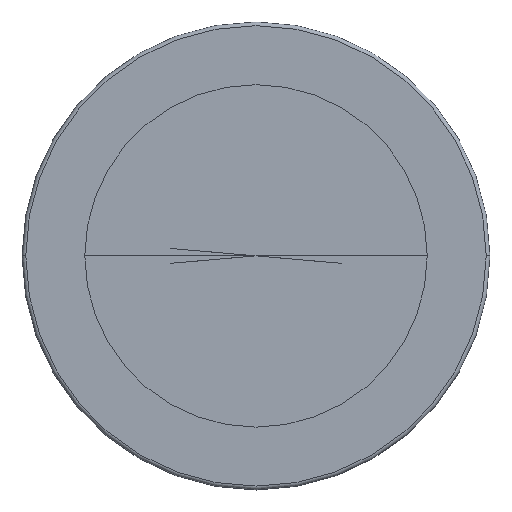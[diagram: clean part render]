
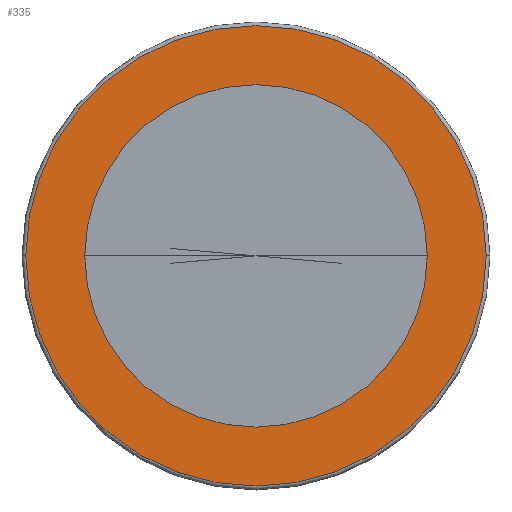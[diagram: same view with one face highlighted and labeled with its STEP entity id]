
A CAD part, top view. The second image highlights one B-rep face of the part: STEP entity #335.
In plain terms, the highlighted planar face has unit normal (0, 0, 1).
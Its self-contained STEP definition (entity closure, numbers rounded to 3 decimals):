
#9=CARTESIAN_POINT('',(0.,0.,2.434));
#10=DIRECTION('',(0.,0.,-1.));
#11=DIRECTION('',(1.,0.,0.));
#12=AXIS2_PLACEMENT_3D('',#9,#10,#11);
#14=CARTESIAN_POINT('',(0.,0.,2.434));
#15=DIRECTION('',(0.,0.,1.));
#16=DIRECTION('',(1.,0.,0.));
#17=AXIS2_PLACEMENT_3D('',#14,#15,#16);
#19=CARTESIAN_POINT('',(0.,0.,2.434));
#20=DIRECTION('',(0.,0.,-1.));
#21=DIRECTION('',(1.,0.,0.));
#22=AXIS2_PLACEMENT_3D('',#19,#20,#21);
#24=CARTESIAN_POINT('',(0.,0.,2.434));
#25=DIRECTION('',(0.,0.,-1.));
#26=DIRECTION('',(-1.,0.,0.));
#27=AXIS2_PLACEMENT_3D('',#24,#25,#26);
#254=CARTESIAN_POINT('',(2.315,0.,2.434));
#256=VERTEX_POINT('',#254);
#257=CARTESIAN_POINT('',(-2.315,0.,2.434));
#258=VERTEX_POINT('',#257);
#280=CARTESIAN_POINT('',(3.113,0.,2.434));
#281=CARTESIAN_POINT('',(-3.113,0.,2.434));
#282=VERTEX_POINT('',#280);
#283=VERTEX_POINT('',#281);
#320=CARTESIAN_POINT('',(0.,0.,2.434));
#321=DIRECTION('',(0.,0.,1.));
#322=DIRECTION('',(-1.,0.,0.));
#323=AXIS2_PLACEMENT_3D('',#320,#321,#322);
#324=PLANE('',#323);
#326=ORIENTED_EDGE('',*,*,#325,.T.);
#328=ORIENTED_EDGE('',*,*,#327,.T.);
#329=EDGE_LOOP('',(#326,#328));
#330=FACE_OUTER_BOUND('',#329,.F.);
#331=ORIENTED_EDGE('',*,*,#314,.F.);
#332=ORIENTED_EDGE('',*,*,#298,.T.);
#333=EDGE_LOOP('',(#331,#332));
#334=FACE_BOUND('',#333,.F.);
#335=ADVANCED_FACE('',(#330,#334),#324,.T.);
#13=CIRCLE('',#12,2.315);
#18=CIRCLE('',#17,2.315);
#23=CIRCLE('',#22,3.113);
#28=CIRCLE('',#27,3.113);
#298=EDGE_CURVE('',#256,#258,#18,.T.);
#314=EDGE_CURVE('',#256,#258,#13,.T.);
#325=EDGE_CURVE('',#282,#283,#23,.T.);
#327=EDGE_CURVE('',#283,#282,#28,.T.);
